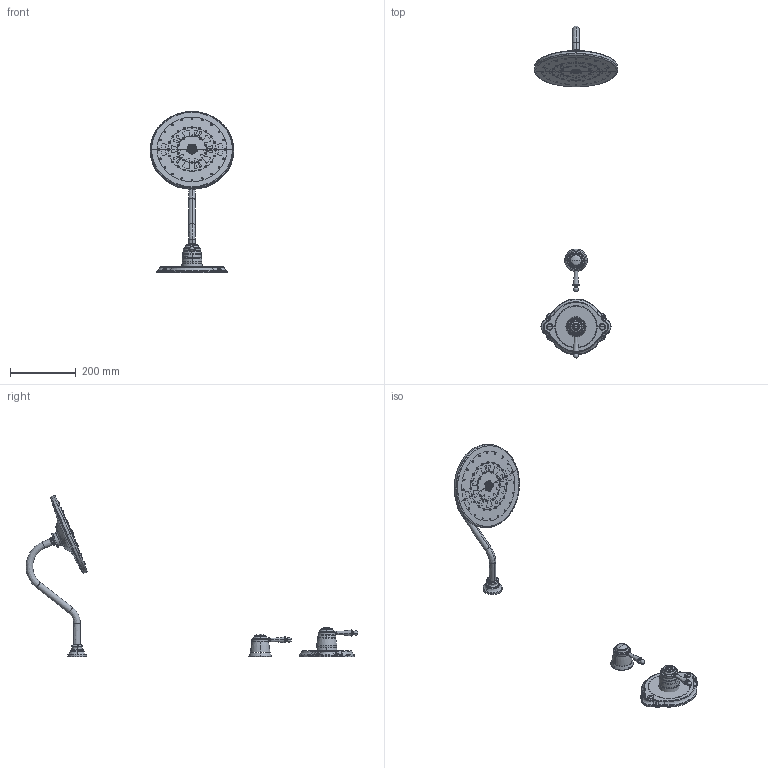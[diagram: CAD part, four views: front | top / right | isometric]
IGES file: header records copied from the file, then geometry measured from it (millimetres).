
Start section:  PTC IGES file: sku_ts3112.igs
Global section: file name: sku_ts3112.igs; native system: Pro/ENGINEER by Parametric Technology Corporation; preprocessor: 2006460; author: 9dutterb; organization: Unknown; date: 20071109.104759; units: inch
Bounding box: 254.36 x 1012.84 x 491.77 mm (x, y, z)
Surface area: 465582.7 mm2 (no closed solid volume)
Topology: 0 solids, 0 shells, 625 faces, 3277 edges, 3261 vertices
Faces by surface type: revolution 472, bspline 153
